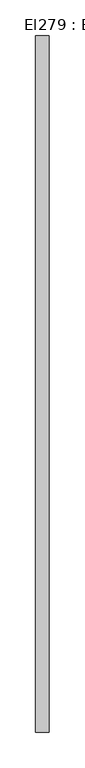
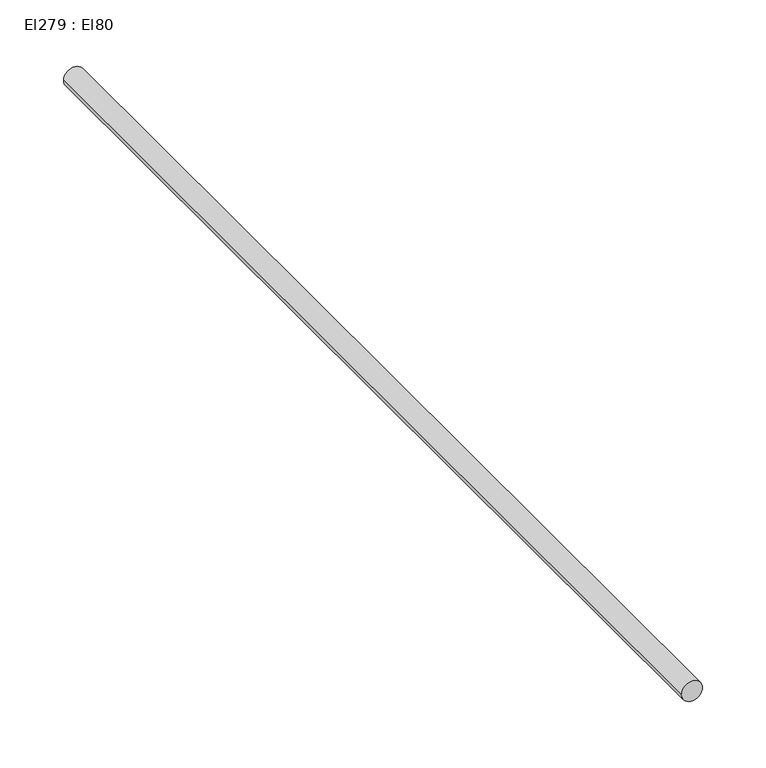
"""IFC4 building model written with IfcOpenShell, lengths in millimetres: cable carrier segment geometry, El279 : El80."""

from ifc_helpers import new_model, si_unit, point, frame, frame_2d, origin, place, context, project, spatial, circle_curve, trimmed, segment, composite_curve, outline, extrude, source, transform, mapped, element, save


def el279_el80_b8201097(model_context):
    return source(origin(), model_context, "Body", "SweptSolid", [
        extrude(outline(composite_curve([segment(trimmed(circle_curve(frame_2d((1800.0, 15114.4746511)), 9.5), [point((1800.0, 15104.9746511))], [point((1800.0, 15123.9746511))], False, "CARTESIAN"), True, "CONTINUOUS"), segment(trimmed(circle_curve(frame_2d((1800.0, 15114.4746511)), 9.5), [point((1800.0, 15123.9746511))], [point((1800.0, 15104.9746511))], False, "CARTESIAN"), True, "CONTINUOUS")], self_intersect=False)), frame((0.0, 7924.1191745, 0.0), z_axis=(0.0, 1.0, 0.0), x_axis=(0.0, 0.0, 1.0)), (0.0, 0.0, 1.0), 972.386),
    ])


if __name__ == "__main__":
    model = new_model("IFC4")
    model_context = context("Model", 3, world=origin())
    ifc_project = project(units=[si_unit("LENGTHUNIT", "METRE", prefix="MILLI")], contexts=[model_context])
    site = spatial("IfcSite", under=ifc_project)
    building = spatial("IfcBuilding", under=site)
    placement = place(None, origin())
    el279_el80_shape = el279_el80_b8201097(model_context)
    element("IfcCableCarrierSegment", 1, ObjectType="El279 : El80", at=placement, inside=building, context=model_context, shape_type="MappedRepresentation", body=[
        mapped(el279_el80_shape, transform((0.0, 0.0, 0.0), x_axis=(1.0, 0.0, 0.0), y_axis=(0.0, 1.0, 0.0), z_axis=(0.0, 0.0, 1.0))),
    ])
    save(model, "model.ifc")
